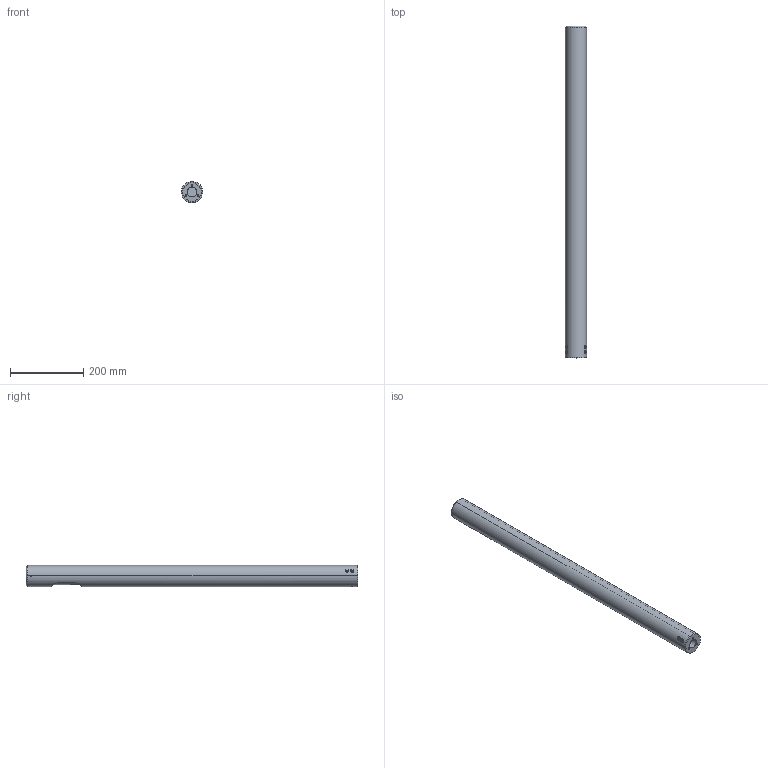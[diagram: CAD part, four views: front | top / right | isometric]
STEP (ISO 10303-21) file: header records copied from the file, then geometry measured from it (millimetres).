
FILE_DESCRIPTION((''),'2;1');
FILE_NAME('H900-1L_SW0002','2025-05-23T11:03:47',('elena.baldelli'),(''),'CREO PARAMETRIC BY PTC INC, 2020354','CREO PARAMETRIC BY PTC INC, 2020354','');
FILE_SCHEMA(('CONFIG_CONTROL_DESIGN'));
Length unit declared in the file: millimetre
Products named in the file (1): H900-1L_SW0002
Bounding box: 58 x 905 x 58.01 mm (x, y, z)
Surface area: 322078.5 mm2 (no closed solid volume)
Topology: 0 solids, 11 shells, 32 faces, 218 edges, 195 vertices
Faces by surface type: cylinder 14, plane 13, cone 4, bspline 1
Entity records: 5795 total; most frequent: CARTESIAN_POINT 4164, DIRECTION 301, ORIENTED_EDGE 267, EDGE_CURVE 218, VERTEX_POINT 195, AXIS2_PLACEMENT_3D 119, CIRCLE 88, B_SPLINE_CURVE_WITH_KNOTS 67
